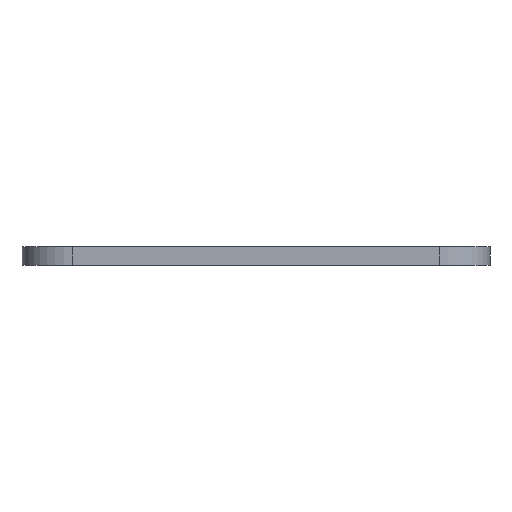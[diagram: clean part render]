
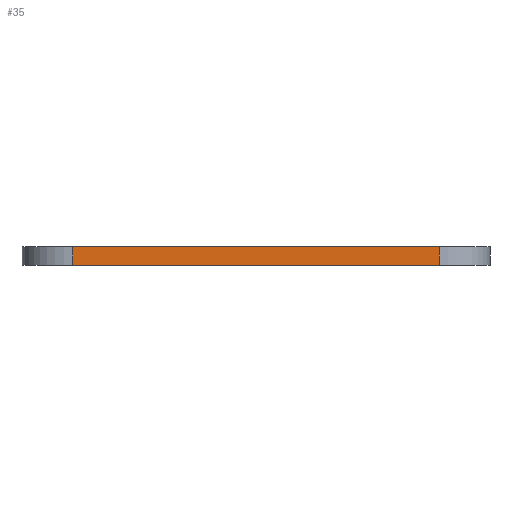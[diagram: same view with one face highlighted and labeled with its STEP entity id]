
A CAD part, left-side view. The second image highlights one B-rep face of the part: STEP entity #35.
In plain terms, the highlighted planar face has unit normal (-1, 0, 0).
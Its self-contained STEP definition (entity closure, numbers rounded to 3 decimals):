
#35 = ADVANCED_FACE('',(#36),#50,.F.);
#36 = FACE_BOUND('',#37,.F.);
#37 = EDGE_LOOP('',(#38,#73,#101,#129));
#38 = ORIENTED_EDGE('',*,*,#39,.F.);
#39 = EDGE_CURVE('',#40,#42,#44,.T.);
#40 = VERTEX_POINT('',#41);
#41 = CARTESIAN_POINT('',(-47.,-18.,-0.9));
#42 = VERTEX_POINT('',#43);
#43 = CARTESIAN_POINT('',(-47.,-18.,0.9));
#44 = SURFACE_CURVE('',#45,(#49,#61),.PCURVE_S1.);
#45 = LINE('',#46,#47);
#46 = CARTESIAN_POINT('',(-47.,-18.,-0.9));
#47 = VECTOR('',#48,1.);
#48 = DIRECTION('',(0.,0.,1.));
#49 = PCURVE('',#50,#55);
#50 = PLANE('',#51);
#51 = AXIS2_PLACEMENT_3D('',#52,#53,#54);
#52 = CARTESIAN_POINT('',(-47.,-18.,0.));
#53 = DIRECTION('',(1.,0.,0.));
#54 = DIRECTION('',(-0.,1.,0.));
#55 = DEFINITIONAL_REPRESENTATION('',(#56),#60);
#56 = LINE('',#57,#58);
#57 = CARTESIAN_POINT('',(0.,-0.9));
#58 = VECTOR('',#59,1.);
#59 = DIRECTION('',(0.,1.));
#60 = ( GEOMETRIC_REPRESENTATION_CONTEXT(2) 
PARAMETRIC_REPRESENTATION_CONTEXT() REPRESENTATION_CONTEXT('2D SPACE',''
  ) );
#61 = PCURVE('',#62,#67);
#62 = CYLINDRICAL_SURFACE('',#63,5.);
#63 = AXIS2_PLACEMENT_3D('',#64,#65,#66);
#64 = CARTESIAN_POINT('',(-42.,-18.,0.));
#65 = DIRECTION('',(0.,0.,1.));
#66 = DIRECTION('',(1.,0.,-0.));
#67 = DEFINITIONAL_REPRESENTATION('',(#68),#72);
#68 = LINE('',#69,#70);
#69 = CARTESIAN_POINT('',(3.142,-0.9));
#70 = VECTOR('',#71,1.);
#71 = DIRECTION('',(0.,1.));
#72 = ( GEOMETRIC_REPRESENTATION_CONTEXT(2) 
PARAMETRIC_REPRESENTATION_CONTEXT() REPRESENTATION_CONTEXT('2D SPACE',''
  ) );
#73 = ORIENTED_EDGE('',*,*,#74,.T.);
#74 = EDGE_CURVE('',#40,#75,#77,.T.);
#75 = VERTEX_POINT('',#76);
#76 = CARTESIAN_POINT('',(-47.,18.,-0.9));
#77 = SURFACE_CURVE('',#78,(#82,#89),.PCURVE_S1.);
#78 = LINE('',#79,#80);
#79 = CARTESIAN_POINT('',(-47.,0.,-0.9));
#80 = VECTOR('',#81,1.);
#81 = DIRECTION('',(0.,1.,0.));
#82 = PCURVE('',#50,#83);
#83 = DEFINITIONAL_REPRESENTATION('',(#84),#88);
#84 = LINE('',#85,#86);
#85 = CARTESIAN_POINT('',(18.,-0.9));
#86 = VECTOR('',#87,1.);
#87 = DIRECTION('',(1.,0.));
#88 = ( GEOMETRIC_REPRESENTATION_CONTEXT(2) 
PARAMETRIC_REPRESENTATION_CONTEXT() REPRESENTATION_CONTEXT('2D SPACE',''
  ) );
#89 = PCURVE('',#90,#95);
#90 = PLANE('',#91);
#91 = AXIS2_PLACEMENT_3D('',#92,#93,#94);
#92 = CARTESIAN_POINT('',(0.,0.,-0.9)
  );
#93 = DIRECTION('',(0.,0.,1.));
#94 = DIRECTION('',(1.,0.,-0.));
#95 = DEFINITIONAL_REPRESENTATION('',(#96),#100);
#96 = LINE('',#97,#98);
#97 = CARTESIAN_POINT('',(-47.,0.));
#98 = VECTOR('',#99,1.);
#99 = DIRECTION('',(0.,1.));
#100 = ( GEOMETRIC_REPRESENTATION_CONTEXT(2) 
PARAMETRIC_REPRESENTATION_CONTEXT() REPRESENTATION_CONTEXT('2D SPACE',''
  ) );
#101 = ORIENTED_EDGE('',*,*,#102,.F.);
#102 = EDGE_CURVE('',#103,#75,#105,.T.);
#103 = VERTEX_POINT('',#104);
#104 = CARTESIAN_POINT('',(-47.,18.,0.9));
#105 = SURFACE_CURVE('',#106,(#110,#117),.PCURVE_S1.);
#106 = LINE('',#107,#108);
#107 = CARTESIAN_POINT('',(-47.,18.,0.9));
#108 = VECTOR('',#109,1.);
#109 = DIRECTION('',(0.,0.,-1.));
#110 = PCURVE('',#50,#111);
#111 = DEFINITIONAL_REPRESENTATION('',(#112),#116);
#112 = LINE('',#113,#114);
#113 = CARTESIAN_POINT('',(36.,0.9));
#114 = VECTOR('',#115,1.);
#115 = DIRECTION('',(0.,-1.));
#116 = ( GEOMETRIC_REPRESENTATION_CONTEXT(2) 
PARAMETRIC_REPRESENTATION_CONTEXT() REPRESENTATION_CONTEXT('2D SPACE',''
  ) );
#117 = PCURVE('',#118,#123);
#118 = CYLINDRICAL_SURFACE('',#119,5.);
#119 = AXIS2_PLACEMENT_3D('',#120,#121,#122);
#120 = CARTESIAN_POINT('',(-42.,18.,0.));
#121 = DIRECTION('',(0.,0.,1.));
#122 = DIRECTION('',(1.,0.,-0.));
#123 = DEFINITIONAL_REPRESENTATION('',(#124),#128);
#124 = LINE('',#125,#126);
#125 = CARTESIAN_POINT('',(3.142,0.9));
#126 = VECTOR('',#127,1.);
#127 = DIRECTION('',(0.,-1.));
#128 = ( GEOMETRIC_REPRESENTATION_CONTEXT(2) 
PARAMETRIC_REPRESENTATION_CONTEXT() REPRESENTATION_CONTEXT('2D SPACE',''
  ) );
#129 = ORIENTED_EDGE('',*,*,#130,.F.);
#130 = EDGE_CURVE('',#42,#103,#131,.T.);
#131 = SURFACE_CURVE('',#132,(#136,#143),.PCURVE_S1.);
#132 = LINE('',#133,#134);
#133 = CARTESIAN_POINT('',(-47.,0.,0.9));
#134 = VECTOR('',#135,1.);
#135 = DIRECTION('',(0.,1.,0.));
#136 = PCURVE('',#50,#137);
#137 = DEFINITIONAL_REPRESENTATION('',(#138),#142);
#138 = LINE('',#139,#140);
#139 = CARTESIAN_POINT('',(18.,0.9));
#140 = VECTOR('',#141,1.);
#141 = DIRECTION('',(1.,0.));
#142 = ( GEOMETRIC_REPRESENTATION_CONTEXT(2) 
PARAMETRIC_REPRESENTATION_CONTEXT() REPRESENTATION_CONTEXT('2D SPACE',''
  ) );
#143 = PCURVE('',#144,#149);
#144 = PLANE('',#145);
#145 = AXIS2_PLACEMENT_3D('',#146,#147,#148);
#146 = CARTESIAN_POINT('',(0.,0.,0.9)
  );
#147 = DIRECTION('',(0.,0.,1.));
#148 = DIRECTION('',(1.,0.,-0.));
#149 = DEFINITIONAL_REPRESENTATION('',(#150),#154);
#150 = LINE('',#151,#152);
#151 = CARTESIAN_POINT('',(-47.,0.));
#152 = VECTOR('',#153,1.);
#153 = DIRECTION('',(0.,1.));
#154 = ( GEOMETRIC_REPRESENTATION_CONTEXT(2) 
PARAMETRIC_REPRESENTATION_CONTEXT() REPRESENTATION_CONTEXT('2D SPACE',''
  ) );
